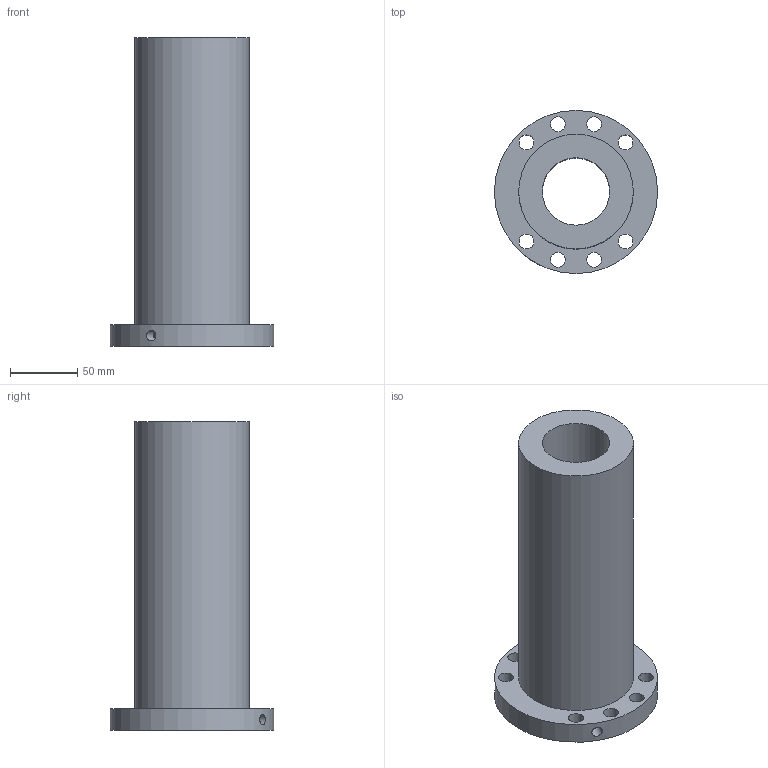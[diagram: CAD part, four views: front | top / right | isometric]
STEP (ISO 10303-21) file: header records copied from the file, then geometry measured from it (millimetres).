
FILE_DESCRIPTION(/* description */ (''),/* implementation_level */ '2;1');
FILE_NAME(/* name */ '50-16K5_7938',/* time_stamp */ '2007-10-15T12:53:54+08:00',/* author */ (''),/* organization */ (''),/* preprocessor_version */ 'ST-DEVELOPER v11',/* originating_system */ 'UGS - NX 5.0',/* authorisation */ '');
FILE_SCHEMA (('CONFIG_CONTROL_DESIGN'));
Length unit declared in the file: millimetre
Products named in the file (1): 50-16K5_7938
Bounding box: 121 x 121 x 229 mm (x, y, z)
Volume: 929625.8 mm3; surface area: 121581.2 mm2
Topology: 1 solids, 1 shells, 17 faces, 40 edges, 27 vertices
Faces by surface type: cylinder 13, plane 4
Full cylindrical faces by diameter (mm): 6 x1, 8 x1, 11 x8, 50 x1, 85 x1, 121 x1
Entity records: 668 total; most frequent: CARTESIAN_POINT 184, DIRECTION 84, FACE_BOUND 52, EDGE_LOOP 52, ORIENTED_EDGE 52, AXIS2_PLACEMENT_3D 42, VERTEX_POINT 26, EDGE_CURVE 26
